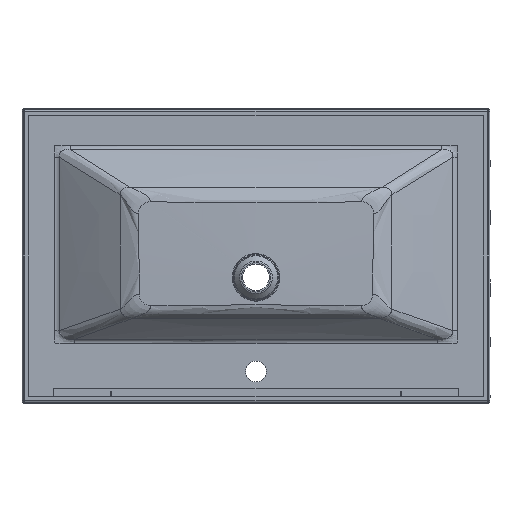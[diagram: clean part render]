
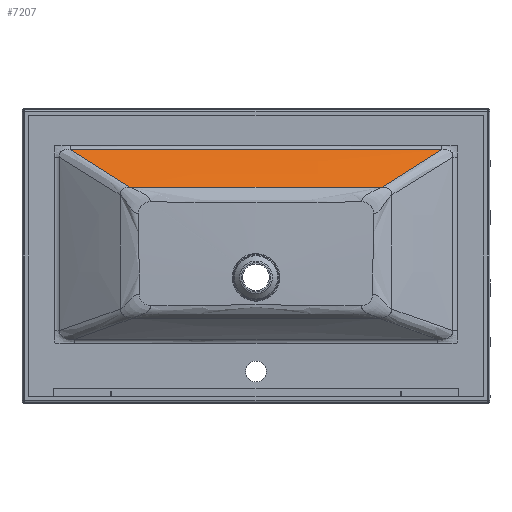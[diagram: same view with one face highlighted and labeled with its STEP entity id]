
A CAD part, front view. The second image highlights one B-rep face of the part: STEP entity #7207.
In plain terms, the highlighted free-form (B-spline) face has degree [3, 3] with [4, 4] control points.
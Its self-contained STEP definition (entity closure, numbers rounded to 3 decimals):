
#7 = VERTEX_POINT ( 'NONE', #9459 ) ;
#112 = CARTESIAN_POINT ( 'NONE',  ( 313.045, -12.271, 215.845 ) ) ;
#263 = CARTESIAN_POINT ( 'NONE',  ( 218.656, -81.356, 156.257 ) ) ;
#1259 = CARTESIAN_POINT ( 'NONE',  ( -108.623, -57.163, 179.279 ) ) ;
#1404 = CARTESIAN_POINT ( 'NONE',  ( 108.292, -31.785, 201.2 ) ) ;
#1535 = CARTESIAN_POINT ( 'NONE',  ( -325.352, -5.715, 221.075 ) ) ;
#1904 = CARTESIAN_POINT ( 'NONE',  ( -33.937, -81.356, 156.657 ) ) ;
#3678 = CARTESIAN_POINT ( 'NONE',  ( -321.495, -5.716, 221.096 ) ) ;
#4065 = B_SPLINE_CURVE_WITH_KNOTS ( 'NONE', 3,
 ( #36685, #112, #19785, #33093, #16626, #26233, #23521, #23084, #10053, #263 ),
 .UNSPECIFIED., .F., .F.,
 ( 4, 2, 2, 2, 4 ),
 ( 0.418, 0.439, 0.45, 0.46, 0.502 ),
 .UNSPECIFIED. ) ;
#5341 = CARTESIAN_POINT ( 'NONE',  ( -129.945, -81.356, 156.528 ) ) ;
#5430 = CARTESIAN_POINT ( 'NONE',  ( -325.365, -57.163, 178.089 ) ) ;
#6217 = EDGE_CURVE ( 'NONE', #7, #9413, #34765, .T. ) ;
#6819 = CARTESIAN_POINT ( 'NONE',  ( -274.676, -41.172, 191.795 ) ) ;
#7207 = ADVANCED_FACE ( 'NONE', ( #38176 ), #27398, .T. ) ;
#8365 = CARTESIAN_POINT ( 'NONE',  ( 145.599, -81.356, 156.492 ) ) ;
#9413 = VERTEX_POINT ( 'NONE', #36883 ) ;
#9459 = CARTESIAN_POINT ( 'NONE',  ( 218.656, -81.356, 156.257 ) ) ;
#10053 = CARTESIAN_POINT ( 'NONE',  ( 235.969, -69.296, 167.311 ) ) ;
#11349 = CARTESIAN_POINT ( 'NONE',  ( 321.494, -5.715, 221.096 ) ) ;
#12106 = CARTESIAN_POINT ( 'NONE',  ( -93.163, -81.356, 156.591 ) ) ;
#12174 = CARTESIAN_POINT ( 'NONE',  ( -218.656, -81.356, 156.257 ) ) ;
#12594 = CARTESIAN_POINT ( 'NONE',  ( -253.193, -56.885, 178.229 ) ) ;
#13436 = CARTESIAN_POINT ( 'NONE',  ( -304.562, -18.767, 210.551 ) ) ;
#13694 = B_SPLINE_CURVE_WITH_KNOTS ( 'NONE', 3,
 ( #12174, #18901, #28781, #12594, #41965, #6819, #33059, #19601, #32647, #13436, #36358, #3678 ),
 .UNSPECIFIED., .F., .F.,
 ( 4, 2, 2, 2, 2, 4 ),
 ( 0.497, 0.518, 0.539, 0.55, 0.56, 0.581 ),
 .UNSPECIFIED. ) ;
#14612 = CARTESIAN_POINT ( 'NONE',  ( 108.125, -57.163, 179.28 ) ) ;
#14967 = CARTESIAN_POINT ( 'NONE',  ( 129.945, -81.356, 156.528 ) ) ;
#15256 = CARTESIAN_POINT ( 'NONE',  ( -145.599, -81.356, 156.492 ) ) ;
#15385 = CARTESIAN_POINT ( 'NONE',  ( 33.937, -81.356, 156.657 ) ) ;
#16626 = CARTESIAN_POINT ( 'NONE',  ( 287.516, -31.623, 199.87 ) ) ;
#17625 = CARTESIAN_POINT ( 'NONE',  ( 108.453, -5.715, 222.264 ) ) ;
#17644 = CARTESIAN_POINT ( 'NONE',  ( 107.167, -5.715, 222.257 ) ) ;
#18544 = CARTESIAN_POINT ( 'NONE',  ( -197.647, -81.356, 156.335 ) ) ;
#18631 = CARTESIAN_POINT ( 'NONE',  ( 107.952, -81.797, 156.552 ) ) ;
#18691 = CARTESIAN_POINT ( 'NONE',  ( 179.45, -81.356, 156.395 ) ) ;
#18901 = CARTESIAN_POINT ( 'NONE',  ( -227.312, -75.326, 161.784 ) ) ;
#19601 = CARTESIAN_POINT ( 'NONE',  ( -287.516, -31.623, 199.87 ) ) ;
#19785 = CARTESIAN_POINT ( 'NONE',  ( 304.562, -18.767, 210.551 ) ) ;
#19854 = CARTESIAN_POINT ( 'NONE',  ( 321.494, -5.715, 221.096 ) ) ;
#20929 = CARTESIAN_POINT ( 'NONE',  ( 325.352, -5.715, 221.075 ) ) ;
#21944 = CARTESIAN_POINT ( 'NONE',  ( -108.714, -81.797, 156.55 ) ) ;
#21976 = CARTESIAN_POINT ( 'NONE',  ( -321.495, -5.716, 221.096 ) ) ;
#23084 = CARTESIAN_POINT ( 'NONE',  ( 253.211, -56.958, 178.258 ) ) ;
#23508 = EDGE_LOOP ( 'NONE', ( #33453, #40273, #36007, #42117 ) ) ;
#23521 = CARTESIAN_POINT ( 'NONE',  ( 274.675, -41.173, 191.795 ) ) ;
#24861 = CARTESIAN_POINT ( 'NONE',  ( -179.449, -81.356, 156.395 ) ) ;
#26233 = CARTESIAN_POINT ( 'NONE',  ( 278.962, -37.999, 194.494 ) ) ;
#26892 = VERTEX_POINT ( 'NONE', #19854 ) ;
#27398 = B_SPLINE_SURFACE_WITH_KNOTS ( 'NONE', 3, 3, ( 
 ( #1535, #40826, #17625, #20929 ),
 ( #40547, #37536, #1404, #34093 ),
 ( #5430, #1259, #14612, #35098 ),
 ( #37392, #21944, #18631, #37107 ) ),
 .UNSPECIFIED., .F., .F., .F.,
 ( 4, 4 ),
 ( 4, 4 ),
 ( 3.821, 3.887 ),
 ( 0., 0.011 ),
 .UNSPECIFIED. ) ;
#27803 = CARTESIAN_POINT ( 'NONE',  ( -321.495, -5.716, 221.096 ) ) ;
#28007 = CARTESIAN_POINT ( 'NONE',  ( -16.968, -81.356, 156.668 ) ) ;
#28149 = CARTESIAN_POINT ( 'NONE',  ( 197.647, -81.356, 156.335 ) ) ;
#28781 = CARTESIAN_POINT ( 'NONE',  ( -235.951, -69.226, 167.284 ) ) ;
#30734 = B_SPLINE_CURVE_WITH_KNOTS ( 'NONE', 3,
 ( #27803, #40567, #17644, #11349 ),
 .UNSPECIFIED., .F., .F.,
 ( 4, 4 ),
 ( 0., 1. ),
 .UNSPECIFIED. ) ;
#30792 = EDGE_CURVE ( 'NONE', #26892, #7, #4065, .T. ) ;
#31592 = CARTESIAN_POINT ( 'NONE',  ( 93.163, -81.356, 156.591 ) ) ;
#31731 = CARTESIAN_POINT ( 'NONE',  ( 72.034, -81.356, 156.619 ) ) ;
#32297 = VERTEX_POINT ( 'NONE', #21976 ) ;
#32647 = CARTESIAN_POINT ( 'NONE',  ( -291.784, -28.42, 202.548 ) ) ;
#33059 = CARTESIAN_POINT ( 'NONE',  ( -278.962, -37.999, 194.494 ) ) ;
#33093 = CARTESIAN_POINT ( 'NONE',  ( 291.784, -28.42, 202.548 ) ) ;
#33453 = ORIENTED_EDGE ( 'NONE', *, *, #30792, .F. ) ;
#34093 = CARTESIAN_POINT ( 'NONE',  ( 325.114, -31.785, 200.011 ) ) ;
#34765 = B_SPLINE_CURVE_WITH_KNOTS ( 'NONE', 3,
 ( #34869, #28149, #18691, #8365, #14967, #31592, #31731, #15385, #41036, #28007, #1904, #38178, #12106, #5341, #15256, #24861, #18544, #35014 ),
 .UNSPECIFIED., .F., .F.,
 ( 4, 2, 2, 2, 2, 2, 2, 2, 4 ),
 ( 0., 0.125, 0.25, 0.375, 0.5, 0.625, 0.75, 0.875, 1. ),
 .UNSPECIFIED. ) ;
#34869 = CARTESIAN_POINT ( 'NONE',  ( 218.656, -81.356, 156.257 ) ) ;
#35014 = CARTESIAN_POINT ( 'NONE',  ( -218.656, -81.356, 156.257 ) ) ;
#35098 = CARTESIAN_POINT ( 'NONE',  ( 324.867, -57.163, 178.092 ) ) ;
#36007 = ORIENTED_EDGE ( 'NONE', *, *, #40637, .F. ) ;
#36358 = CARTESIAN_POINT ( 'NONE',  ( -313.045, -12.271, 215.845 ) ) ;
#36685 = CARTESIAN_POINT ( 'NONE',  ( 321.494, -5.715, 221.096 ) ) ;
#36883 = CARTESIAN_POINT ( 'NONE',  ( -218.656, -81.356, 156.257 ) ) ;
#37107 = CARTESIAN_POINT ( 'NONE',  ( 324.611, -81.797, 155.365 ) ) ;
#37392 = CARTESIAN_POINT ( 'NONE',  ( -325.373, -81.797, 155.361 ) ) ;
#37536 = CARTESIAN_POINT ( 'NONE',  ( -108.536, -31.785, 201.199 ) ) ;
#38176 = FACE_OUTER_BOUND ( 'NONE', #23508, .T. ) ;
#38178 = CARTESIAN_POINT ( 'NONE',  ( -72.034, -81.356, 156.619 ) ) ;
#40273 = ORIENTED_EDGE ( 'NONE', *, *, #41135, .F. ) ;
#40547 = CARTESIAN_POINT ( 'NONE',  ( -325.358, -31.785, 200.01 ) ) ;
#40567 = CARTESIAN_POINT ( 'NONE',  ( -107.167, -5.715, 222.257 ) ) ;
#40637 = EDGE_CURVE ( 'NONE', #9413, #32297, #13694, .T. ) ;
#40826 = CARTESIAN_POINT ( 'NONE',  ( -108.453, -5.715, 222.264 ) ) ;
#41036 = CARTESIAN_POINT ( 'NONE',  ( 16.969, -81.356, 156.668 ) ) ;
#41135 = EDGE_CURVE ( 'NONE', #32297, #26892, #30734, .T. ) ;
#41965 = CARTESIAN_POINT ( 'NONE',  ( -261.798, -50.643, 183.673 ) ) ;
#42117 = ORIENTED_EDGE ( 'NONE', *, *, #6217, .F. ) ;
